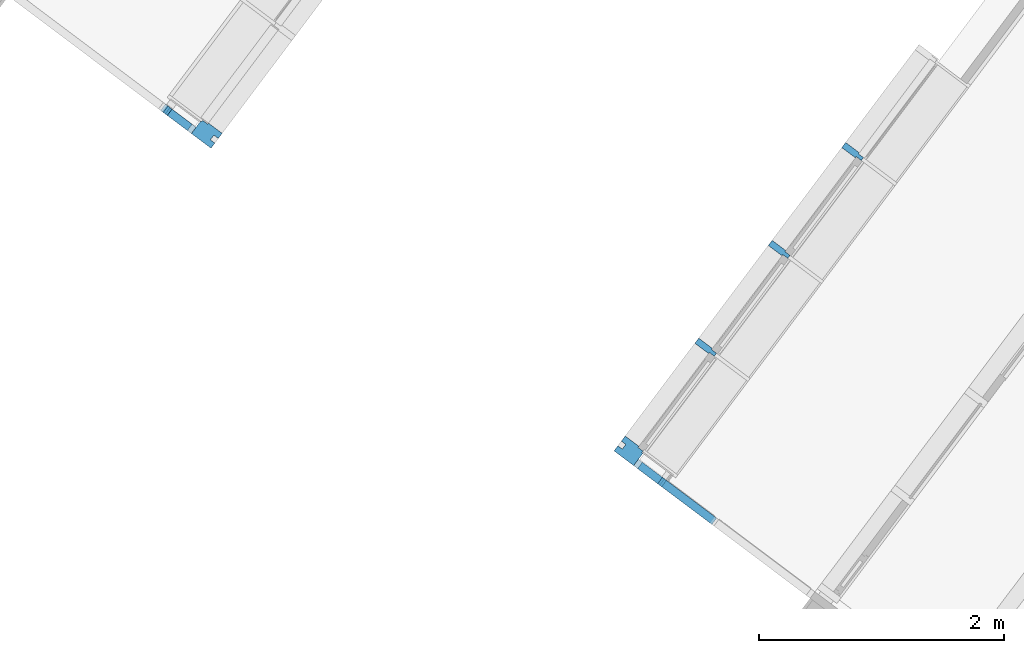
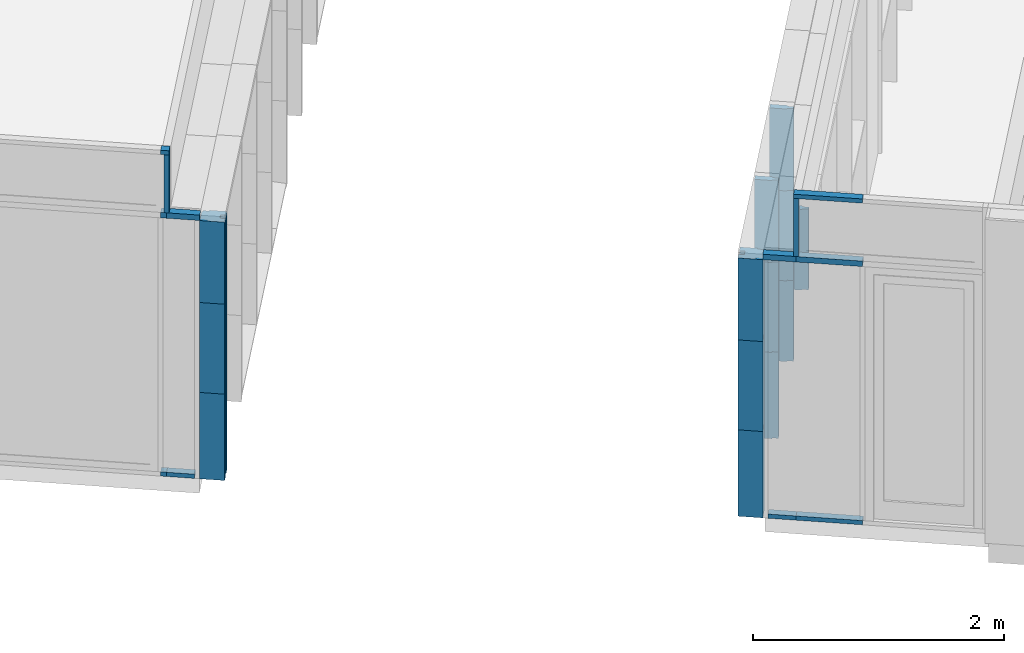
# One storey, part 76 of 243: 25 members, 4 elements without a shape of their own.
"""IFC2X3 building model written with IfcOpenShell, lengths in metres."""

from ifc_helpers import new_model, entity, si_unit, converted_unit, derived_unit, direction, frame, frame_2d, origin, origin_2d_with_axis, place, context, subcontext, project, spatial, polyline, rectangle, outline, extrude, source, transform, mapped, material, type_object, type_shapes, element, aggregate, save


model = new_model("IFC2X3")

# Units and contexts
model_context = context("Model", 3, precision=1e-05, world=origin(), true_north=direction((6.123031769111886e-17, 1.0)))
body_context = subcontext(model_context, "Body", "Model", "MODEL_VIEW")
ifc_project = project(units=[si_unit("LENGTHUNIT", "METRE"), si_unit("AREAUNIT", "SQUARE_METRE"), si_unit("VOLUMEUNIT", "CUBIC_METRE"), converted_unit("PLANEANGLEUNIT", "DEGREE", entity("IfcRatioMeasure", 0.017453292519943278), si_unit("PLANEANGLEUNIT", "RADIAN"), dimensions=[0, 0, 0, 0, 0, 0, 0]), si_unit("MASSUNIT", "GRAM", prefix="KILO"), derived_unit("MASSDENSITYUNIT", [(si_unit("MASSUNIT", "GRAM", prefix="KILO"), 1), (si_unit("LENGTHUNIT", "METRE"), -3)]), derived_unit("IONCONCENTRATIONUNIT", [(si_unit("MASSUNIT", "GRAM", prefix="KILO"), 1), (si_unit("LENGTHUNIT", "METRE"), -3)]), derived_unit("MOMENTOFINERTIAUNIT", [(si_unit("LENGTHUNIT", "METRE"), 4)]), si_unit("TIMEUNIT", "SECOND"), si_unit("FREQUENCYUNIT", "HERTZ"), si_unit("THERMODYNAMICTEMPERATUREUNIT", "DEGREE_CELSIUS"), derived_unit("THERMALTRANSMITTANCEUNIT", [(si_unit("MASSUNIT", "GRAM", prefix="KILO"), 1), (si_unit("THERMODYNAMICTEMPERATUREUNIT", "KELVIN"), -1), (si_unit("TIMEUNIT", "SECOND"), -3)]), derived_unit("THERMALCONDUCTANCEUNIT", [(si_unit("MASSUNIT", "GRAM", prefix="KILO"), 1), (si_unit("THERMODYNAMICTEMPERATUREUNIT", "KELVIN"), -1), (si_unit("TIMEUNIT", "SECOND"), -3), (si_unit("LENGTHUNIT", "METRE"), 1)]), derived_unit("VOLUMETRICFLOWRATEUNIT", [(si_unit("LENGTHUNIT", "METRE"), 3), (si_unit("TIMEUNIT", "SECOND"), -1)]), derived_unit("MASSFLOWRATEUNIT", [(si_unit("MASSUNIT", "GRAM", prefix="KILO"), 1), (si_unit("TIMEUNIT", "SECOND"), -1)]), derived_unit("ROTATIONALFREQUENCYUNIT", [(si_unit("TIMEUNIT", "SECOND"), -1)]), si_unit("ELECTRICCURRENTUNIT", "AMPERE"), si_unit("ELECTRICVOLTAGEUNIT", "VOLT"), si_unit("POWERUNIT", "WATT"), si_unit("FORCEUNIT", "NEWTON", prefix="KILO"), si_unit("ILLUMINANCEUNIT", "LUX"), si_unit("LUMINOUSFLUXUNIT", "LUMEN"), si_unit("LUMINOUSINTENSITYUNIT", "CANDELA"), derived_unit("USERDEFINED", [(si_unit("MASSUNIT", "GRAM", prefix="KILO"), -1), (si_unit("LENGTHUNIT", "METRE"), -2), (si_unit("TIMEUNIT", "SECOND"), 3), (si_unit("LUMINOUSFLUXUNIT", "LUMEN"), 1)]), derived_unit("USERDEFINED", [(si_unit("MASSUNIT", "GRAM", prefix="KILO"), 1), (si_unit("TIMEUNIT", "SECOND"), -3), (si_unit("LENGTHUNIT", "METRE"), 3), (si_unit("ELECTRICCURRENTUNIT", "AMPERE"), -2)]), derived_unit("SOUNDPOWERUNIT", [(si_unit("MASSUNIT", "GRAM", prefix="KILO"), 1), (si_unit("TIMEUNIT", "SECOND"), -3), (si_unit("LENGTHUNIT", "METRE"), 2)]), derived_unit("SOUNDPRESSUREUNIT", [(si_unit("MASSUNIT", "GRAM", prefix="KILO"), 1), (si_unit("LENGTHUNIT", "METRE"), -1), (si_unit("TIMEUNIT", "SECOND"), -2)]), derived_unit("LINEARVELOCITYUNIT", [(si_unit("LENGTHUNIT", "METRE"), 1), (si_unit("TIMEUNIT", "SECOND"), -1)]), si_unit("PRESSUREUNIT", "PASCAL"), derived_unit("USERDEFINED", [(si_unit("MASSUNIT", "GRAM", prefix="KILO"), 1), (si_unit("LENGTHUNIT", "METRE"), -2), (si_unit("TIMEUNIT", "SECOND"), -2)]), derived_unit("LINEARFORCEUNIT", [(si_unit("MASSUNIT", "GRAM", prefix="KILO"), 1), (si_unit("TIMEUNIT", "SECOND"), -2)]), derived_unit("PLANARFORCEUNIT", [(si_unit("MASSUNIT", "GRAM", prefix="KILO"), 1), (si_unit("LENGTHUNIT", "METRE"), -1), (si_unit("TIMEUNIT", "SECOND"), -2)]), derived_unit("SPECIFICHEATCAPACITYUNIT", [(si_unit("THERMODYNAMICTEMPERATUREUNIT", "KELVIN"), -1), (si_unit("LENGTHUNIT", "METRE"), 2), (si_unit("TIMEUNIT", "SECOND"), -2)]), derived_unit("HEATINGVALUEUNIT", [(si_unit("LENGTHUNIT", "METRE"), 2), (si_unit("TIMEUNIT", "SECOND"), -2)]), derived_unit("VAPORPERMEABILITYUNIT", [(si_unit("LENGTHUNIT", "METRE"), -1), (si_unit("TIMEUNIT", "SECOND"), 1)]), derived_unit("DYNAMICVISCOSITYUNIT", [(si_unit("MASSUNIT", "GRAM", prefix="KILO"), 1), (si_unit("TIMEUNIT", "SECOND"), -1), (si_unit("LENGTHUNIT", "METRE"), -1)]), derived_unit("THERMALEXPANSIONCOEFFICIENTUNIT", [(si_unit("THERMODYNAMICTEMPERATUREUNIT", "KELVIN"), -1)]), derived_unit("MODULUSOFELASTICITYUNIT", [(si_unit("MASSUNIT", "GRAM", prefix="KILO"), 1), (si_unit("LENGTHUNIT", "METRE"), -1), (si_unit("TIMEUNIT", "SECOND"), -2)]), derived_unit("ISOTHERMALMOISTURECAPACITYUNIT", [(si_unit("LENGTHUNIT", "METRE"), 3), (si_unit("MASSUNIT", "GRAM", prefix="KILO"), -1)]), derived_unit("MOISTUREDIFFUSIVITYUNIT", [(si_unit("TIMEUNIT", "SECOND"), -1), (si_unit("LENGTHUNIT", "METRE"), 2)])], contexts=[model_context])

# Site, building, storey
site_placement = place(None, frame((0.0, 0.0, 235.0), z_axis=(0.0, 0.0, 1.0), x_axis=(-0.7996477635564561, 0.6004693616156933, 0.0)))
site = spatial("IfcSite", under=ifc_project, at=site_placement, Name="Default", CompositionType="ELEMENT")
building_placement = place(site_placement, origin())
building = spatial("IfcBuilding", under=site, at=building_placement, CompositionType="ELEMENT")
storey_placement = place(building_placement, origin())
storey = spatial("IfcBuildingStorey", under=building, at=storey_placement, Name="P0- Escola", CompositionType="ELEMENT", Elevation=0.0)

# Curtain wall, members
curtain_wall_type_1 = type_object("IfcCurtainWallType", Name="Muro cortina:MC- EXT- MC2", PredefinedType="NOTDEFINED")
curtain_wall_1_placement = place(storey_placement, origin())
curtain_wall_1 = element("IfcCurtainWall", 1, at=curtain_wall_1_placement, inside=storey, type_object=curtain_wall_type_1, Name="Muro cortina:MC- EXT- MC2", ObjectType="Muro cortina:MC- EXT- MC2")
ifc_material = material(Name="_Alumini- T1- Perfil")
member_type_1 = type_object("IfcMemberType", Name="Montante rectangular:MC- Alu- 140x52,5 cm- Fa patis- Cantonada", PredefinedType="MULLION", material=ifc_material)
shared_shape_1 = source(origin(), body_context, "Body", "SweptSolid", [
    extrude(outline(polyline([(-0.09566666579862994, -0.05708333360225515), (0.04333333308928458, -0.05708333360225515), (0.04333333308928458, -0.0458333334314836), (0.09433333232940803, -0.04583333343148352), (0.09433333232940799, -0.03083333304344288), (0.10433333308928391, -0.03083333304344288), (0.10433333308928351, 0.09541666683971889), (-0.09566666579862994, 0.09541666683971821), (-0.09566666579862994, 0.042916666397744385), (-0.05066666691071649, 0.042916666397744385), (-0.050666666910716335, -0.004583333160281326), (-0.09566666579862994, -0.004583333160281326), (-0.09566666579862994, -0.05708333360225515)])), frame((-0.09541666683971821, 0.04433333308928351, -0.8400000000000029), z_axis=(0.0, 0.0, 1.0), x_axis=(0.0, -1.0, 0.0)), (0.0, 0.0, 1.0), 0.8400000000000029),
])
type_shapes(member_type_1, [shared_shape_1])
member_1_placement = place(curtain_wall_1_placement, frame((53.74514768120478, -20.288941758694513, 0.8200000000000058), z_axis=(0.0, 0.0, 1.0), x_axis=(0.0, 1.0, 0.0)))
member_1 = element("IfcMember", 2, at=member_1_placement, type_object=member_type_1, material=ifc_material, Name="Montante rectangular:MC- Alu- 140x52,5 cm- Fa patis- Cantonada", ObjectType="Montante rectangular:MC- Alu- 140x52,5 cm- Fa patis- Cantonada", context=body_context, shape_type="MappedRepresentation", body=[
    mapped(shared_shape_1, transform((0.0, 0.0, 0.0), scale=1.0)),
])
member_type_2 = type_object("IfcMemberType", Name="Montante rectangular:MC- Alu- 140x52,5 cm- Fa patis- Cantonada", PredefinedType="MULLION", material=ifc_material)
shared_shape_2 = source(origin(), body_context, "Body", "SweptSolid", [
    extrude(outline(polyline([(-0.09566666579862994, -0.05708333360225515), (0.04333333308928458, -0.05708333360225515), (0.04333333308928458, -0.0458333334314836), (0.09433333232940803, -0.04583333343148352), (0.09433333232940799, -0.03083333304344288), (0.10433333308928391, -0.03083333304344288), (0.10433333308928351, 0.09541666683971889), (-0.09566666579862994, 0.09541666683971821), (-0.09566666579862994, 0.042916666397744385), (-0.05066666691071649, 0.042916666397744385), (-0.050666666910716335, -0.004583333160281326), (-0.09566666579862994, -0.004583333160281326), (-0.09566666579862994, -0.05708333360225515)])), frame((-0.09541666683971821, 0.04433333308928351, -0.7974999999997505), z_axis=(0.0, 0.0, 1.0), x_axis=(0.0, -1.0, 0.0)), (0.0, 0.0, 1.0), 0.7974999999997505),
])
type_shapes(member_type_2, [shared_shape_2])
member_2_placement = place(curtain_wall_1_placement, frame((53.74514768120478, -20.288941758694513, 2.4924999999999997), z_axis=(0.0, 0.0, 1.0), x_axis=(0.0, 1.0, 0.0)))
member_2 = element("IfcMember", 3, at=member_2_placement, type_object=member_type_2, material=ifc_material, Name="Montante rectangular:MC- Alu- 140x52,5 cm- Fa patis- Cantonada", ObjectType="Montante rectangular:MC- Alu- 140x52,5 cm- Fa patis- Cantonada", context=body_context, shape_type="MappedRepresentation", body=[
    mapped(shared_shape_2, transform((0.0, 0.0, 0.0), scale=1.0)),
])
member_type_3 = type_object("IfcMemberType", Name="Montante rectangular:MC- Alu- 140x52,5 cm- Fa patis- Cantonada", PredefinedType="MULLION", material=ifc_material)
shared_shape_3 = source(origin(), body_context, "Body", "SweptSolid", [
    extrude(outline(polyline([(-0.09566666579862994, -0.05708333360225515), (0.04333333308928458, -0.05708333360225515), (0.04333333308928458, -0.0458333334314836), (0.09433333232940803, -0.04583333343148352), (0.09433333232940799, -0.03083333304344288), (0.10433333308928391, -0.03083333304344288), (0.10433333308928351, 0.09541666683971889), (-0.09566666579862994, 0.09541666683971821), (-0.09566666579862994, 0.042916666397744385), (-0.05066666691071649, 0.042916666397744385), (-0.050666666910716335, -0.004583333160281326), (-0.09566666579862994, -0.004583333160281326), (-0.09566666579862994, -0.05708333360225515)])), frame((-0.09541666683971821, 0.04433333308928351, -0.8750000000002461), z_axis=(0.0, 0.0, 1.0), x_axis=(0.0, -1.0, 0.0)), (0.0, 0.0, 1.0), 0.8750000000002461),
])
type_shapes(member_type_3, [shared_shape_3])
member_3_placement = place(curtain_wall_1_placement, frame((53.74514768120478, -20.288941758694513, 1.6950000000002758), z_axis=(0.0, 0.0, 1.0), x_axis=(0.0, 1.0, 0.0)))
member_3 = element("IfcMember", 4, at=member_3_placement, type_object=member_type_3, material=ifc_material, Name="Montante rectangular:MC- Alu- 140x52,5 cm- Fa patis- Cantonada", ObjectType="Montante rectangular:MC- Alu- 140x52,5 cm- Fa patis- Cantonada", context=body_context, shape_type="MappedRepresentation", body=[
    mapped(shared_shape_3, transform((0.0, 0.0, 0.0), scale=1.0)),
])
aggregate(curtain_wall_1, [member_1, member_2, member_3])

curtain_wall_type_2 = type_object("IfcCurtainWallType", Name="Muro cortina:MC- EXT- AL1- Fa porxo", PredefinedType="NOTDEFINED")
curtain_wall_2_placement = place(storey_placement, origin())
curtain_wall_2 = element("IfcCurtainWall", 5, at=curtain_wall_2_placement, inside=storey, type_object=curtain_wall_type_2, Name="Muro cortina:MC- EXT- AL1- Fa porxo", ObjectType="Muro cortina:MC- EXT- AL1- Fa porxo")
member_type_4 = type_object("IfcMemberType", Name="Montante rectangular:MC- Alu- 65x41 cm- Fa Porxo- Centre", PredefinedType="MULLION", material=ifc_material)
shared_shape_4 = source(origin(), body_context, "Body", "SweptSolid", [
    extrude(rectangle(XDim=0.06500000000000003, YDim=0.041000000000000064, at=frame_2d((3.469446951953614e-18, -5.204170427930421e-18), x_axis=(1.0, 0.0))), frame((-0.020499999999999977, -0.032499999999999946, -0.2256666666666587), z_axis=(0.0, 0.0, 1.0), x_axis=(0.0, -1.0, 0.0)), (0.0, 0.0, 1.0), 0.22566666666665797),
])
type_shapes(member_type_4, [shared_shape_4])
member_4_placement = place(curtain_wall_2_placement, frame((49.244147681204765, -20.28894175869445, -0.020000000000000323), z_axis=(1.0, 0.0, 0.0), x_axis=(0.0, 0.0, -1.0)))
member_4 = element("IfcMember", 6, at=member_4_placement, type_object=member_type_4, material=ifc_material, Name="Montante rectangular:MC- Alu- 65x41 cm- Fa Porxo- Centre", ObjectType="Montante rectangular:MC- Alu- 65x41 cm- Fa Porxo- Centre", context=body_context, shape_type="MappedRepresentation", body=[
    mapped(shared_shape_4, transform((0.0, 0.0, 0.0), scale=1.0)),
])
member_type_5 = type_object("IfcMemberType", Name="Montante rectangular:MC- Alu- 65x52,5 cm- Fa Porxo- Centre", PredefinedType="MULLION", material=ifc_material)
shared_shape_5 = source(origin(), body_context, "Body", "SweptSolid", [
    extrude(rectangle(XDim=0.06500000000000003, YDim=0.05300000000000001, at=frame_2d((3.469446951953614e-18, 3.469446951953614e-18), x_axis=(1.0, 0.0))), frame((0.0, -0.03249999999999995, -0.266666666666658), z_axis=(0.0, 0.0, 1.0), x_axis=(0.0, -1.0, 0.0)), (0.0, 0.0, 1.0), 0.266666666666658),
])
type_shapes(member_type_5, [shared_shape_5])
member_5_placement = place(curtain_wall_2_placement, frame((49.018481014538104, -20.28894175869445, 2.51875), z_axis=(-1.0, 0.0, 0.0), x_axis=(0.0, 0.0, 1.0)))
member_5 = element("IfcMember", 7, at=member_5_placement, type_object=member_type_5, material=ifc_material, Name="Montante rectangular:MC- Alu- 65x52,5 cm- Fa Porxo- Centre", ObjectType="Montante rectangular:MC- Alu- 65x52,5 cm- Fa Porxo- Centre", context=body_context, shape_type="MappedRepresentation", body=[
    mapped(shared_shape_5, transform((0.0, 0.0, 0.0), scale=1.0)),
])
member_type_6 = type_object("IfcMemberType", Name="Montante rectangular:MC- Alu- 65x41 cm- Fa Porxo- Centre", PredefinedType="MULLION", material=ifc_material)
shared_shape_6 = source(origin(), body_context, "Body", "SweptSolid", [
    extrude(rectangle(XDim=0.06500000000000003, YDim=0.041000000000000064, at=frame_2d((0.0, -8.673617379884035e-18), x_axis=(1.0, 0.0))), frame((-0.020500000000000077, -0.032499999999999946, -0.5538333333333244), z_axis=(0.0, 0.0, 1.0), x_axis=(0.0, -1.0, 0.0)), (0.0, 0.0, 1.0), 0.5538333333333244),
])
type_shapes(member_type_6, [shared_shape_6])
member_6_placement = place(curtain_wall_2_placement, frame((48.48514768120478, -20.28894175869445, 3.150000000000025), z_axis=(-1.0, 0.0, 0.0), x_axis=(0.0, 0.0, 1.0)))
member_6 = element("IfcMember", 8, at=member_6_placement, type_object=member_type_6, material=ifc_material, Name="Montante rectangular:MC- Alu- 65x41 cm- Fa Porxo- Centre", ObjectType="Montante rectangular:MC- Alu- 65x41 cm- Fa Porxo- Centre", context=body_context, shape_type="MappedRepresentation", body=[
    mapped(shared_shape_6, transform((0.0, 0.0, 0.0), scale=1.0)),
])
member_type_7 = type_object("IfcMemberType", Name="Montante rectangular:MC- Alu- 65x41 cm- Fa Porxo- Centre", PredefinedType="MULLION", material=ifc_material)
shared_shape_7 = source(origin(), body_context, "Body", "SweptSolid", [
    extrude(rectangle(XDim=0.06500000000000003, YDim=0.041000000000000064, at=frame_2d((3.469446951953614e-18, -5.204170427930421e-18), x_axis=(1.0, 0.0))), frame((-0.020499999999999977, -0.032499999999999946, -0.5333333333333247), z_axis=(0.0, 0.0, 1.0), x_axis=(0.0, -1.0, 0.0)), (0.0, 0.0, 1.0), 0.5333333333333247),
])
type_shapes(member_type_7, [shared_shape_7])
member_7_placement = place(curtain_wall_2_placement, frame((49.018481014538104, -20.28894175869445, -0.02000000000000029), z_axis=(1.0, 0.0, 0.0), x_axis=(0.0, 0.0, -1.0)))
member_7 = element("IfcMember", 9, at=member_7_placement, type_object=member_type_7, material=ifc_material, Name="Montante rectangular:MC- Alu- 65x41 cm- Fa Porxo- Centre", ObjectType="Montante rectangular:MC- Alu- 65x41 cm- Fa Porxo- Centre", context=body_context, shape_type="MappedRepresentation", body=[
    mapped(shared_shape_7, transform((0.0, 0.0, 0.0), scale=1.0)),
])
member_type_8 = type_object("IfcMemberType", Name="Montante rectangular:MC- Alu- 65x52,5 cm- Fa Porxo- Centre", PredefinedType="MULLION", material=ifc_material)
shared_shape_8 = source(origin(), body_context, "Body", "SweptSolid", [
    extrude(rectangle(XDim=0.06500000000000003, YDim=0.05300000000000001, at=frame_2d((3.469446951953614e-18, 3.469446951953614e-18), x_axis=(1.0, 0.0))), frame((0.0, -0.03249999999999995, -0.5333333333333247), z_axis=(0.0, 0.0, 1.0), x_axis=(0.0, -1.0, 0.0)), (0.0, 0.0, 1.0), 0.5333333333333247),
])
type_shapes(member_type_8, [shared_shape_8])
member_8_placement = place(curtain_wall_2_placement, frame((48.48514768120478, -20.28894175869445, 2.51875), z_axis=(-1.0, 0.0, 0.0), x_axis=(0.0, 0.0, 1.0)))
member_8 = element("IfcMember", 10, at=member_8_placement, type_object=member_type_8, material=ifc_material, Name="Montante rectangular:MC- Alu- 65x52,5 cm- Fa Porxo- Centre", ObjectType="Montante rectangular:MC- Alu- 65x52,5 cm- Fa Porxo- Centre", context=body_context, shape_type="MappedRepresentation", body=[
    mapped(shared_shape_8, transform((0.0, 0.0, 0.0), scale=1.0)),
])
member_type_9 = type_object("IfcMemberType", Name="Montante rectangular:MC- Alu- 65x41 cm- Fa Porxo- Centre", PredefinedType="MULLION", material=ifc_material)
shared_shape_9 = source(origin(), body_context, "Body", "SweptSolid", [
    extrude(rectangle(XDim=0.06500000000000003, YDim=0.04100000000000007, at=frame_2d((0.0, -8.673617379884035e-18), x_axis=(1.0, 0.0))), frame((0.0, -0.032499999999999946, -0.5637500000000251), z_axis=(0.0, 0.0, 1.0), x_axis=(0.0, -1.0, 0.0)), (0.0, 0.0, 1.0), 0.5637500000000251),
])
type_shapes(member_type_9, [shared_shape_9])
member_9_placement = place(curtain_wall_2_placement, frame((49.018481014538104, -20.28894175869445, 2.54525), z_axis=(0.0, 0.0, -1.0), x_axis=(-1.0, 0.0, 0.0)))
member_9 = element("IfcMember", 11, at=member_9_placement, type_object=member_type_9, material=ifc_material, Name="Montante rectangular:MC- Alu- 65x41 cm- Fa Porxo- Centre", ObjectType="Montante rectangular:MC- Alu- 65x41 cm- Fa Porxo- Centre", context=body_context, shape_type="MappedRepresentation", body=[
    mapped(shared_shape_9, transform((0.0, 0.0, 0.0), scale=1.0)),
])
aggregate(curtain_wall_2, [member_4, member_5, member_6, member_7, member_8, member_9])

curtain_wall_type_3 = type_object("IfcCurtainWallType", Name="Muro cortina:MC- EXT- MC5", PredefinedType="NOTDEFINED")
curtain_wall_3_placement = place(storey_placement, origin())
curtain_wall_3 = element("IfcCurtainWall", 12, at=curtain_wall_3_placement, inside=storey, type_object=curtain_wall_type_3, Name="Muro cortina:MC- EXT- MC5", ObjectType="Muro cortina:MC- EXT- MC5")
member_type_10 = type_object("IfcMemberType", Name="Montante rectangular:MC- Alu- 140x52,5 cm- Fa patis- Centre", PredefinedType="MULLION", material=ifc_material)
shared_shape_10 = source(origin(), body_context, "Body", "SweptSolid", [
    extrude(outline(polyline([(-0.021999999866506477, -0.026250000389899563), (0.11699999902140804, -0.026250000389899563), (0.11699999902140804, 0.026250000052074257), (-0.02200000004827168, 0.026250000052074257), (-0.02200000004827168, 0.015000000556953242), (-0.07299999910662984, 0.015000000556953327), (-0.07299999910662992, -0.01500000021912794), (-0.021999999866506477, -0.01500000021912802), (-0.021999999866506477, -0.026250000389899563)])), frame((0.0, -0.022999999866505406, -0.8400000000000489), z_axis=(0.0, 0.0, 1.0), x_axis=(0.0, -1.0, 0.0)), (0.0, 0.0, 1.0), 0.8400000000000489),
])
type_shapes(member_type_10, [shared_shape_10])
member_10_placement = place(curtain_wall_3_placement, frame((49.3451476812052, -21.41519175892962, -0.02), z_axis=(0.0, 0.0, -1.0), x_axis=(0.0, -1.0, 0.0)))
member_10 = element("IfcMember", 13, at=member_10_placement, type_object=member_type_10, material=ifc_material, Name="Montante rectangular:MC- Alu- 140x52,5 cm- Fa patis- Centre", ObjectType="Montante rectangular:MC- Alu- 140x52,5 cm- Fa patis- Centre", context=body_context, shape_type="MappedRepresentation", body=[
    mapped(shared_shape_10, transform((0.0, 0.0, 0.0), scale=1.0)),
])
member_type_11 = type_object("IfcMemberType", Name="Montante rectangular:MC- Alu- 140x52,5 cm- Fa patis- Centre", PredefinedType="MULLION", material=ifc_material)
shared_shape_11 = source(origin(), body_context, "Body", "SweptSolid", [
    extrude(outline(polyline([(-0.021999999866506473, -0.026250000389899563), (0.11699999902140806, -0.026250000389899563), (0.11699999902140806, 0.026250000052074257), (-0.022000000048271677, 0.026250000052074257), (-0.022000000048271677, 0.015000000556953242), (-0.07299999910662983, 0.015000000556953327), (-0.07299999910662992, -0.01500000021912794), (-0.021999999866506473, -0.01500000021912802), (-0.021999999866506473, -0.026250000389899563)])), frame((0.0, -0.022999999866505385, -0.7850000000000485), z_axis=(0.0, 0.0, 1.0), x_axis=(0.0, -1.0, 0.0)), (0.0, 0.0, 1.0), 0.7850000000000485),
])
type_shapes(member_type_11, [shared_shape_11])
member_11_placement = place(curtain_wall_3_placement, frame((49.3451476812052, -22.41519175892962, 0.035000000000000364), z_axis=(0.0, 0.0, -1.0), x_axis=(0.0, -1.0, 0.0)))
member_11 = element("IfcMember", 14, at=member_11_placement, type_object=member_type_11, material=ifc_material, Name="Montante rectangular:MC- Alu- 140x52,5 cm- Fa patis- Centre", ObjectType="Montante rectangular:MC- Alu- 140x52,5 cm- Fa patis- Centre", context=body_context, shape_type="MappedRepresentation", body=[
    mapped(shared_shape_11, transform((0.0, 0.0, 0.0), scale=1.0)),
])
member_12_placement = place(curtain_wall_3_placement, frame((49.345147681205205, -23.415191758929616, 0.035000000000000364), z_axis=(0.0, 0.0, -1.0), x_axis=(0.0, -1.0, 0.0)))
member_12 = element("IfcMember", 15, at=member_12_placement, type_object=member_type_11, material=ifc_material, Name="Montante rectangular:MC- Alu- 140x52,5 cm- Fa patis- Centre", ObjectType="Montante rectangular:MC- Alu- 140x52,5 cm- Fa patis- Centre", context=body_context, shape_type="MappedRepresentation", body=[
    mapped(shared_shape_11, transform((0.0, 0.0, 0.0), scale=1.0)),
])
member_type_12 = type_object("IfcMemberType", Name="Montante rectangular:MC- Alu- 140x52,5 cm- Fa patis- Centre", PredefinedType="MULLION", material=ifc_material)
shared_shape_12 = source(origin(), body_context, "Body", "SweptSolid", [
    extrude(outline(polyline([(-0.021999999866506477, -0.026250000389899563), (0.11699999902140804, -0.026250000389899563), (0.11699999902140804, 0.026250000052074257), (-0.02200000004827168, 0.026250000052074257), (-0.02200000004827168, 0.015000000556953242), (-0.07299999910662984, 0.015000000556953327), (-0.07299999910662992, -0.01500000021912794), (-0.021999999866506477, -0.01500000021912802), (-0.021999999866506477, -0.026250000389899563)])), frame((0.0, -0.022999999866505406, -0.8750000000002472), z_axis=(0.0, 0.0, 1.0), x_axis=(0.0, -1.0, 0.0)), (0.0, 0.0, 1.0), 0.8750000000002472),
])
type_shapes(member_type_12, [shared_shape_12])
member_13_placement = place(curtain_wall_3_placement, frame((49.3451476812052, -21.41519175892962, 0.8200000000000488), z_axis=(0.0, 0.0, -1.0), x_axis=(0.0, -1.0, 0.0)))
member_13 = element("IfcMember", 16, at=member_13_placement, type_object=member_type_12, material=ifc_material, Name="Montante rectangular:MC- Alu- 140x52,5 cm- Fa patis- Centre", ObjectType="Montante rectangular:MC- Alu- 140x52,5 cm- Fa patis- Centre", context=body_context, shape_type="MappedRepresentation", body=[
    mapped(shared_shape_12, transform((0.0, 0.0, 0.0), scale=1.0)),
])
member_14_placement = place(curtain_wall_3_placement, frame((49.3451476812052, -22.41519175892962, 0.8200000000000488), z_axis=(0.0, 0.0, -1.0), x_axis=(0.0, -1.0, 0.0)))
member_14 = element("IfcMember", 17, at=member_14_placement, type_object=member_type_12, material=ifc_material, Name="Montante rectangular:MC- Alu- 140x52,5 cm- Fa patis- Centre", ObjectType="Montante rectangular:MC- Alu- 140x52,5 cm- Fa patis- Centre", context=body_context, shape_type="MappedRepresentation", body=[
    mapped(shared_shape_12, transform((0.0, 0.0, 0.0), scale=1.0)),
])
member_type_13 = type_object("IfcMemberType", Name="Montante rectangular:MC- Alu- 140x52,5 cm- Fa patis- Cantonada", PredefinedType="MULLION", material=ifc_material)
shared_shape_13 = source(origin(), body_context, "Body", "SweptSolid", [
    extrude(outline(polyline([(-0.04333333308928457, -0.05708333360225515), (0.09566666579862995, -0.05708333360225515), (0.09566666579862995, -0.004583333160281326), (0.05066666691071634, -0.004583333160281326), (0.050666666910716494, 0.042916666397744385), (0.09566666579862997, 0.042916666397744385), (0.09566666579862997, 0.09541666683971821), (-0.1043333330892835, 0.09541666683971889), (-0.1043333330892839, -0.03083333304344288), (-0.09433333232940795, -0.030833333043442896), (-0.094333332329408, -0.04583333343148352), (-0.04333333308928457, -0.0458333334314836), (-0.04333333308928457, -0.05708333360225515)])), frame((-0.09541666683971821, -0.0443333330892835, -0.8400000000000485), z_axis=(0.0, 0.0, 1.0), x_axis=(0.0, -1.0, 0.0)), (0.0, 0.0, 1.0), 0.8400000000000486),
])
type_shapes(member_type_13, [shared_shape_13])
member_15_placement = place(curtain_wall_3_placement, frame((49.3451476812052, -20.28894175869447, 0.8200000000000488), z_axis=(0.0, 0.0, 1.0), x_axis=(0.0, 1.0, 0.0)))
member_15 = element("IfcMember", 18, at=member_15_placement, type_object=member_type_13, material=ifc_material, Name="Montante rectangular:MC- Alu- 140x52,5 cm- Fa patis- Cantonada", ObjectType="Montante rectangular:MC- Alu- 140x52,5 cm- Fa patis- Cantonada", context=body_context, shape_type="MappedRepresentation", body=[
    mapped(shared_shape_13, transform((0.0, 0.0, 0.0), scale=1.0)),
])
member_type_14 = type_object("IfcMemberType", Name="Montante rectangular:MC- Alu- 140x52,5 cm- Fa patis- Cantonada", PredefinedType="MULLION", material=ifc_material)
shared_shape_14 = source(origin(), body_context, "Body", "SweptSolid", [
    extrude(outline(polyline([(-0.04333333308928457, -0.05708333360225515), (0.09566666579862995, -0.05708333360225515), (0.09566666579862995, -0.004583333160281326), (0.05066666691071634, -0.004583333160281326), (0.050666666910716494, 0.042916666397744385), (0.09566666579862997, 0.042916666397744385), (0.09566666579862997, 0.09541666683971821), (-0.1043333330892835, 0.09541666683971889), (-0.1043333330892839, -0.03083333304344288), (-0.09433333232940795, -0.030833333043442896), (-0.094333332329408, -0.04583333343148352), (-0.04333333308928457, -0.0458333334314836), (-0.04333333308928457, -0.05708333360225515)])), frame((-0.09541666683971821, -0.0443333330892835, -0.7974999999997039), z_axis=(0.0, 0.0, 1.0), x_axis=(0.0, -1.0, 0.0)), (0.0, 0.0, 1.0), 0.7974999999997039),
])
type_shapes(member_type_14, [shared_shape_14])
member_16_placement = place(curtain_wall_3_placement, frame((49.3451476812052, -20.28894175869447, 2.4924999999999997), z_axis=(0.0, 0.0, 1.0), x_axis=(0.0, 1.0, 0.0)))
member_16 = element("IfcMember", 19, at=member_16_placement, type_object=member_type_14, material=ifc_material, Name="Montante rectangular:MC- Alu- 140x52,5 cm- Fa patis- Cantonada", ObjectType="Montante rectangular:MC- Alu- 140x52,5 cm- Fa patis- Cantonada", context=body_context, shape_type="MappedRepresentation", body=[
    mapped(shared_shape_14, transform((0.0, 0.0, 0.0), scale=1.0)),
])
member_type_15 = type_object("IfcMemberType", Name="Montante rectangular:MC- Alu- 140x52,5 cm- Fa patis- Centre", PredefinedType="MULLION", material=ifc_material)
shared_shape_15 = source(origin(), body_context, "Body", "SweptSolid", [
    extrude(outline(polyline([(-0.021999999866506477, -0.026250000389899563), (0.11699999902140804, -0.026250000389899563), (0.11699999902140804, 0.026250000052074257), (-0.02200000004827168, 0.026250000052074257), (-0.02200000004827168, 0.015000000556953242), (-0.07299999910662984, 0.015000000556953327), (-0.07299999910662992, -0.01500000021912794), (-0.021999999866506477, -0.01500000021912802), (-0.021999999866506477, -0.026250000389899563)])), frame((0.0, -0.022999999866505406, -0.7974999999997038), z_axis=(0.0, 0.0, 1.0), x_axis=(0.0, -1.0, 0.0)), (0.0, 0.0, 1.0), 0.7974999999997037),
])
type_shapes(member_type_15, [shared_shape_15])
member_17_placement = place(curtain_wall_3_placement, frame((49.3451476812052, -21.41519175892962, 1.695000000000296), z_axis=(0.0, 0.0, -1.0), x_axis=(0.0, -1.0, 0.0)))
member_17 = element("IfcMember", 20, at=member_17_placement, type_object=member_type_15, material=ifc_material, Name="Montante rectangular:MC- Alu- 140x52,5 cm- Fa patis- Centre", ObjectType="Montante rectangular:MC- Alu- 140x52,5 cm- Fa patis- Centre", context=body_context, shape_type="MappedRepresentation", body=[
    mapped(shared_shape_15, transform((0.0, 0.0, 0.0), scale=1.0)),
])
member_18_placement = place(curtain_wall_3_placement, frame((49.3451476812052, -22.41519175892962, 1.695000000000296), z_axis=(0.0, 0.0, -1.0), x_axis=(0.0, -1.0, 0.0)))
member_18 = element("IfcMember", 21, at=member_18_placement, type_object=member_type_15, material=ifc_material, Name="Montante rectangular:MC- Alu- 140x52,5 cm- Fa patis- Centre", ObjectType="Montante rectangular:MC- Alu- 140x52,5 cm- Fa patis- Centre", context=body_context, shape_type="MappedRepresentation", body=[
    mapped(shared_shape_15, transform((0.0, 0.0, 0.0), scale=1.0)),
])
member_type_16 = type_object("IfcMemberType", Name="Montante rectangular:MC- Alu- 140x52,5 cm- Fa patis- Cantonada", PredefinedType="MULLION", material=ifc_material)
shared_shape_16 = source(origin(), body_context, "Body", "SweptSolid", [
    extrude(outline(polyline([(-0.04333333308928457, -0.05708333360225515), (0.09566666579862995, -0.05708333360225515), (0.09566666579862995, -0.004583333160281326), (0.05066666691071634, -0.004583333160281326), (0.050666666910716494, 0.042916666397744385), (0.09566666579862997, 0.042916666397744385), (0.09566666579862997, 0.09541666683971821), (-0.1043333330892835, 0.09541666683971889), (-0.1043333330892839, -0.03083333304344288), (-0.09433333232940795, -0.030833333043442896), (-0.094333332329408, -0.04583333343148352), (-0.04333333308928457, -0.0458333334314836), (-0.04333333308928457, -0.05708333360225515)])), frame((-0.09541666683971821, -0.0443333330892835, -0.8750000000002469), z_axis=(0.0, 0.0, 1.0), x_axis=(0.0, -1.0, 0.0)), (0.0, 0.0, 1.0), 0.8750000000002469),
])
type_shapes(member_type_16, [shared_shape_16])
member_19_placement = place(curtain_wall_3_placement, frame((49.3451476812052, -20.28894175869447, 1.695000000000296), z_axis=(0.0, 0.0, 1.0), x_axis=(0.0, 1.0, 0.0)))
member_19 = element("IfcMember", 22, at=member_19_placement, type_object=member_type_16, material=ifc_material, Name="Montante rectangular:MC- Alu- 140x52,5 cm- Fa patis- Cantonada", ObjectType="Montante rectangular:MC- Alu- 140x52,5 cm- Fa patis- Cantonada", context=body_context, shape_type="MappedRepresentation", body=[
    mapped(shared_shape_16, transform((0.0, 0.0, 0.0), scale=1.0)),
])
aggregate(curtain_wall_3, [member_10, member_11, member_12, member_13, member_14, member_15, member_16, member_17, member_18, member_19])

curtain_wall_4_placement = place(storey_placement, origin())
curtain_wall_4 = element("IfcCurtainWall", 23, at=curtain_wall_4_placement, inside=storey, type_object=curtain_wall_type_2, Name="Muro cortina:MC- EXT- AL1- Fa porxo", ObjectType="Muro cortina:MC- EXT- AL1- Fa porxo")
member_type_17 = type_object("IfcMemberType", Name="Montante rectangular:MC- Alu- 65x41 cm- Fa Porxo- Centre", PredefinedType="MULLION", material=ifc_material)
shared_shape_17 = source(origin(), body_context, "Body", "SweptSolid", [
    extrude(rectangle(XDim=0.06500000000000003, YDim=0.04100000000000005, at=frame_2d((0.0, 5.204170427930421e-18), x_axis=(1.0, 0.0))), frame((-0.020499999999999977, 0.032499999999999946, -0.22566666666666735), z_axis=(0.0, 0.0, 1.0), x_axis=(0.0, -1.0, 0.0)), (0.0, 0.0, 1.0), 0.22566666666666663),
])
type_shapes(member_type_17, [shared_shape_17])
member_20_placement = place(curtain_wall_4_placement, frame((53.84614768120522, -20.288941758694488, -0.020000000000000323), z_axis=(-1.0, 0.0, 0.0), x_axis=(0.0, 0.0, -1.0)))
member_20 = element("IfcMember", 24, at=member_20_placement, type_object=member_type_17, material=ifc_material, Name="Montante rectangular:MC- Alu- 65x41 cm- Fa Porxo- Centre", ObjectType="Montante rectangular:MC- Alu- 65x41 cm- Fa Porxo- Centre", context=body_context, shape_type="MappedRepresentation", body=[
    mapped(shared_shape_17, transform((0.0, 0.0, 0.0), scale=1.0)),
])
member_type_18 = type_object("IfcMemberType", Name="Montante rectangular:MC- Alu- 65x52,5 cm- Fa Porxo- Centre", PredefinedType="MULLION", material=ifc_material)
shared_shape_18 = source(origin(), body_context, "Body", "SweptSolid", [
    extrude(rectangle(XDim=0.06500000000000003, YDim=0.053000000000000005, at=frame_2d((3.469446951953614e-18, 5.204170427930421e-18), x_axis=(1.0, 0.0))), frame((0.0, 0.03249999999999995, -0.26666666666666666), z_axis=(0.0, 0.0, 1.0), x_axis=(0.0, -1.0, 0.0)), (0.0, 0.0, 1.0), 0.26666666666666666),
])
type_shapes(member_type_18, [shared_shape_18])
member_21_placement = place(curtain_wall_4_placement, frame((54.07181434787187, -20.288941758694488, 2.51875), z_axis=(1.0, 0.0, 0.0), x_axis=(0.0, 0.0, 1.0)))
member_21 = element("IfcMember", 25, at=member_21_placement, type_object=member_type_18, material=ifc_material, Name="Montante rectangular:MC- Alu- 65x52,5 cm- Fa Porxo- Centre", ObjectType="Montante rectangular:MC- Alu- 65x52,5 cm- Fa Porxo- Centre", context=body_context, shape_type="MappedRepresentation", body=[
    mapped(shared_shape_18, transform((0.0, 0.0, 0.0), scale=1.0)),
])
member_type_19 = type_object("IfcMemberType", Name="Montante rectangular:MC- Alu- 65x41 cm- Fa Porxo- Centre", PredefinedType="MULLION", material=ifc_material)
shared_shape_19 = source(origin(), body_context, "Body", "SweptSolid", [
    extrude(rectangle(XDim=0.06500000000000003, YDim=0.041000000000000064, at=origin_2d_with_axis()), frame((-0.02050000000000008, 0.03249999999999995, -0.06833333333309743), z_axis=(0.0, 0.0, 1.0), x_axis=(0.0, -1.0, 0.0)), (0.0, 0.0, 1.0), 0.06833333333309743),
])
type_shapes(member_type_19, [shared_shape_19])
member_22_placement = place(curtain_wall_4_placement, frame((54.119647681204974, -20.288941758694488, 3.150000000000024), z_axis=(1.0, 0.0, 0.0), x_axis=(0.0, 0.0, 1.0)))
member_22 = element("IfcMember", 26, at=member_22_placement, type_object=member_type_19, material=ifc_material, Name="Montante rectangular:MC- Alu- 65x41 cm- Fa Porxo- Centre", ObjectType="Montante rectangular:MC- Alu- 65x41 cm- Fa Porxo- Centre", context=body_context, shape_type="MappedRepresentation", body=[
    mapped(shared_shape_19, transform((0.0, 0.0, 0.0), scale=1.0)),
])
member_type_20 = type_object("IfcMemberType", Name="Montante rectangular:MC- Alu- 65x41 cm- Fa Porxo- Centre", PredefinedType="MULLION", material=ifc_material)
shared_shape_20 = source(origin(), body_context, "Body", "SweptSolid", [
    extrude(rectangle(XDim=0.06500000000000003, YDim=0.041000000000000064, at=frame_2d((0.0, 3.469446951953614e-18), x_axis=(1.0, 0.0))), frame((-0.02049999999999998, 0.032499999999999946, -0.04783333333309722), z_axis=(0.0, 0.0, 1.0), x_axis=(0.0, -1.0, 0.0)), (0.0, 0.0, 1.0), 0.04783333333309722),
])
type_shapes(member_type_20, [shared_shape_20])
member_23_placement = place(curtain_wall_4_placement, frame((54.07181434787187, -20.288941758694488, -0.02000000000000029), z_axis=(-1.0, 0.0, 0.0), x_axis=(0.0, 0.0, -1.0)))
member_23 = element("IfcMember", 27, at=member_23_placement, type_object=member_type_20, material=ifc_material, Name="Montante rectangular:MC- Alu- 65x41 cm- Fa Porxo- Centre", ObjectType="Montante rectangular:MC- Alu- 65x41 cm- Fa Porxo- Centre", context=body_context, shape_type="MappedRepresentation", body=[
    mapped(shared_shape_20, transform((0.0, 0.0, 0.0), scale=1.0)),
])
member_type_21 = type_object("IfcMemberType", Name="Montante rectangular:MC- Alu- 65x52,5 cm- Fa Porxo- Centre", PredefinedType="MULLION", material=ifc_material)
shared_shape_21 = source(origin(), body_context, "Body", "SweptSolid", [
    extrude(rectangle(XDim=0.06500000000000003, YDim=0.053000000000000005, at=frame_2d((3.469446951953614e-18, 5.204170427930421e-18), x_axis=(1.0, 0.0))), frame((0.0, 0.03249999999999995, -0.04783333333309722), z_axis=(0.0, 0.0, 1.0), x_axis=(0.0, -1.0, 0.0)), (0.0, 0.0, 1.0), 0.04783333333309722),
])
type_shapes(member_type_21, [shared_shape_21])
member_24_placement = place(curtain_wall_4_placement, frame((54.119647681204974, -20.288941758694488, 2.51875), z_axis=(1.0, 0.0, 0.0), x_axis=(0.0, 0.0, 1.0)))
member_24 = element("IfcMember", 28, at=member_24_placement, type_object=member_type_21, material=ifc_material, Name="Montante rectangular:MC- Alu- 65x52,5 cm- Fa Porxo- Centre", ObjectType="Montante rectangular:MC- Alu- 65x52,5 cm- Fa Porxo- Centre", context=body_context, shape_type="MappedRepresentation", body=[
    mapped(shared_shape_21, transform((0.0, 0.0, 0.0), scale=1.0)),
])
member_type_22 = type_object("IfcMemberType", Name="Montante rectangular:MC- Alu- 65x41 cm- Fa Porxo- Centre", PredefinedType="MULLION", material=ifc_material)
shared_shape_22 = source(origin(), body_context, "Body", "SweptSolid", [
    extrude(rectangle(XDim=0.06500000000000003, YDim=0.04100000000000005, at=frame_2d((3.469446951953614e-18, 6.938893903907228e-18), x_axis=(1.0, 0.0))), frame((0.0, 0.03249999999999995, -0.5637500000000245), z_axis=(0.0, 0.0, 1.0), x_axis=(0.0, -1.0, 0.0)), (0.0, 0.0, 1.0), 0.5637500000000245),
])
type_shapes(member_type_22, [shared_shape_22])
member_25_placement = place(curtain_wall_4_placement, frame((54.07181434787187, -20.288941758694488, 2.54525), z_axis=(0.0, 0.0, -1.0), x_axis=(1.0, 0.0, 0.0)))
member_25 = element("IfcMember", 29, at=member_25_placement, type_object=member_type_22, material=ifc_material, Name="Montante rectangular:MC- Alu- 65x41 cm- Fa Porxo- Centre", ObjectType="Montante rectangular:MC- Alu- 65x41 cm- Fa Porxo- Centre", context=body_context, shape_type="MappedRepresentation", body=[
    mapped(shared_shape_22, transform((0.0, 0.0, 0.0), scale=1.0)),
])
aggregate(curtain_wall_4, [member_20, member_21, member_22, member_23, member_24, member_25])

save(model, "model.ifc")
